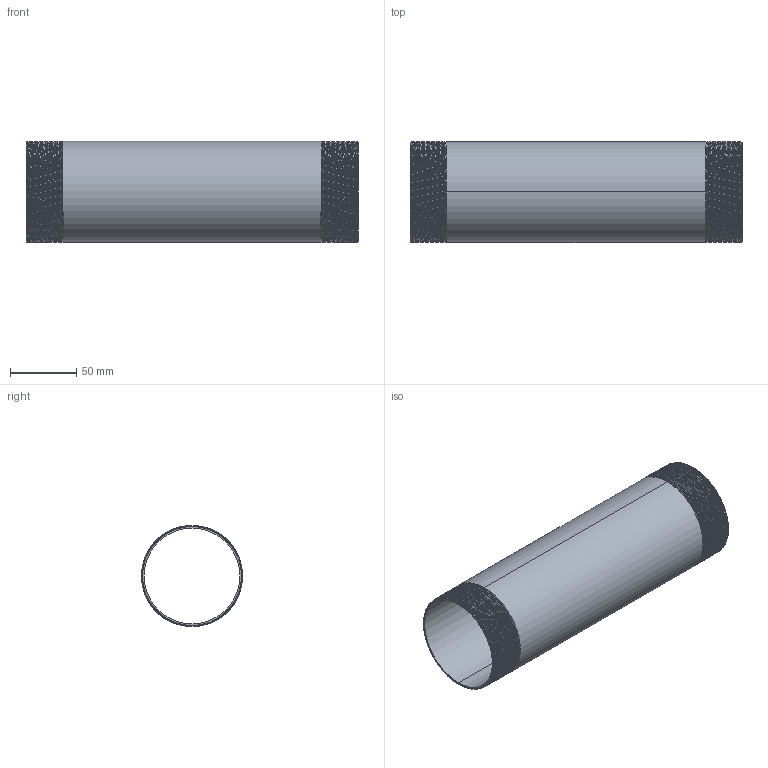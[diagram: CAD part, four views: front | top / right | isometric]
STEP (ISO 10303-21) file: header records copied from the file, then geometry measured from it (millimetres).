
FILE_DESCRIPTION (( 'STEP AP203' ), '1' );
FILE_NAME ('3D_R210_2 1-2x250_17148640.STEP', '2024-08-16T10:17:40', ( '' ), ( '' ), 'SwSTEP 2.0', 'SolidWorks 2024', '' );
FILE_SCHEMA (( 'CONFIG_CONTROL_DESIGN' ));
Length unit declared in the file: millimetre
Products named in the file (1): 3D_R210_2 1-2x250_17148640
Bounding box: 250 x 76.07 x 76.1 mm (x, y, z)
Volume: 110824.6 mm3; surface area: 123960.5 mm2
Topology: 1 solids, 1 shells, 106 faces, 306 edges, 202 vertices
Faces by surface type: cone 92, bspline 6, cylinder 4, plane 4
Entity records: 20059 total; most frequent: CARTESIAN_POINT 17595, ORIENTED_EDGE 612, DIRECTION 328, EDGE_CURVE 306, VERTEX_POINT 202, B_SPLINE_CURVE_WITH_KNOTS 184, AXIS2_PLACEMENT_3D 113, EDGE_LOOP 108
